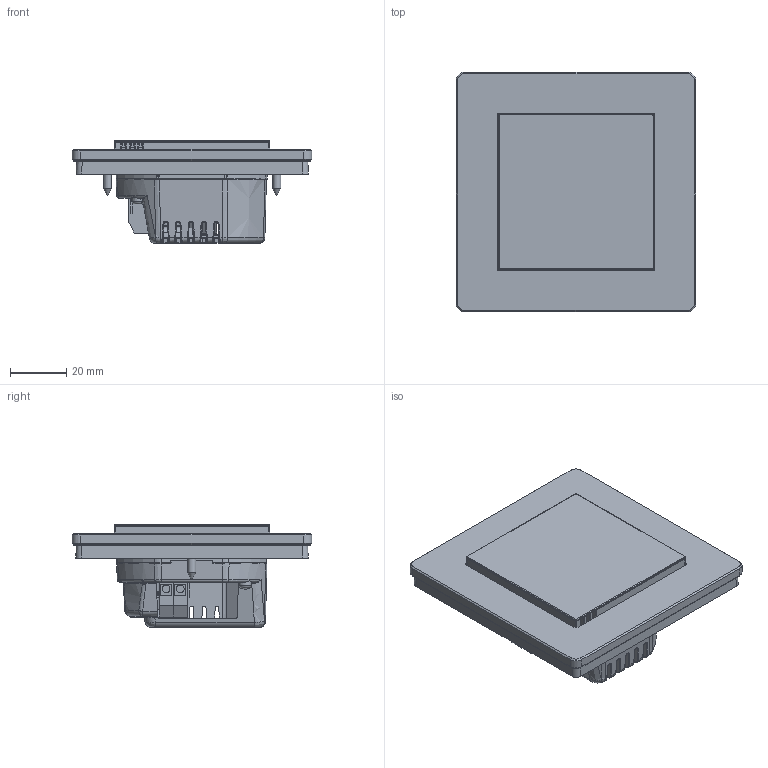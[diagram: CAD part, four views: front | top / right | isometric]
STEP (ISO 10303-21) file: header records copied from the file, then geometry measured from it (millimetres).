
FILE_DESCRIPTION(/* description */ ('','CAx-IF Rec.Pracs.---Representation and Presentation of Product Manufacturing Information (PMI)---4.0---2014-10-13'),/* implementation_level */ '2;1');
FILE_NAME(/* name */ 'F-8Z.step',/* time_stamp */ '2025-02-23T18:01:42+01:00',/* author */ (''),/* organization */ (''),/* preprocessor_version */ 'ST-DEVELOPER v20',/* originating_system */ 'Autodesk Translation Framework v13.20.0.188',/* authorisation */ '');
FILE_SCHEMA (('AP242_MANAGED_MODEL_BASED_3D_ENGINEERING_MIM_LF { 1 0 10303 442 1 1 4 }'));
Products named in the file (29): wersja 1.3_eink; plytka puszka1.2; tht prosty L20; gora laczki1; tht prosty; Blacha1.2; microUSB_pionowe; Gniazdo rast2; Gora1; spod1; Plytka1.2; Led_izolator_ramka_01; wyswietlacz r8b+; szkło_eink; F-2Z FARBA; F-2Z PIKTOGRAMY; ramka_1; PODSTAWA RAMKI SZKLANEJ 1; logo sinum-tech; szkło RAMKI SZKLANEJ 1; 3m_01; Wkręt samogwintujący PN-EN ISO 7050 - ST 2.9 x 
9.5 - C - H Stal 8.8 Płaszczyzna v1; 2; OP-1398-ramkowiec; gora laczki1_1; ISO 7049 - C-H ST 2.2 x 6.5 - C - H; OP-1399_C; łączka 5; S_023.05.000.00002
Assembly tree (46 placements, depth 4):
  wersja 1.3_eink
    tht prosty L20  x8
    plytka puszka1.2
    gora laczki1
    tht prosty  x8
    Blacha1.2
    microUSB_pionowe
    Gniazdo rast2
    Gora1
    spod1
    Plytka1.2
    Led_izolator_ramka_01
    wyswietlacz r8b+
    szkło_eink
    F-2Z FARBA
    F-2Z PIKTOGRAMY
    ramka_1
      PODSTAWA RAMKI SZKLANEJ 1
      logo sinum-tech
      szkło RAMKI SZKLANEJ 1
      3m_01
    Wkręt samogwintujący PN-EN ISO 7050 - ST 2.9 x 
9.5 - C - H Stal 8.8 Płaszczyzna v1  x2
    2
      OP-1398-ramkowiec
        gora laczki1_1
        łączka 5  x2
      ISO 7049 - C-H ST 2.2 x 6.5 - C - H
      OP-1399_C
      łączka 5  x2
    S_023.05.000.00002
Bounding box: 85 x 85 x 36.5 mm (x, y, z)
Volume: 73497.3 mm3; surface area: 107055.3 mm2
Topology: 71 solids, 71 shells, 6433 faces, 16844 edges, 10810 vertices
Faces by surface type: plane 3886, bspline 1115, cylinder 803, cone 301, torus 261, sphere 67
Full cylindrical faces by diameter (mm): 0.25 x1, 0.437 x1, 0.601 x1, 0.8 x4, 0.9 x4, 1.7 x2, 2 x2, 2.17 x1, 2.2 x1, 2.4 x2, 2.6 x2, 2.702 x4, 2.83 x2, 3 x4, 3.5 x4, 5.5 x2, 8.2 x1
Entity records: 202013 total; most frequent: CARTESIAN_POINT 63588, ORIENTED_EDGE 30330, DIRECTION 25392, EDGE_CURVE 15165, LINE 10298, VECTOR 10298, VERTEX_POINT 9751, AXIS2_PLACEMENT_3D 7547
